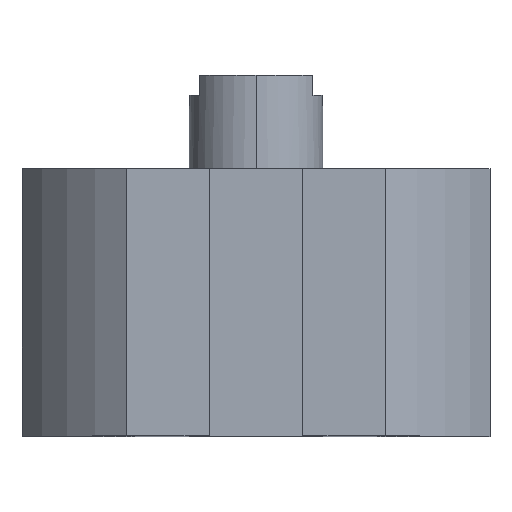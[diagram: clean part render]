
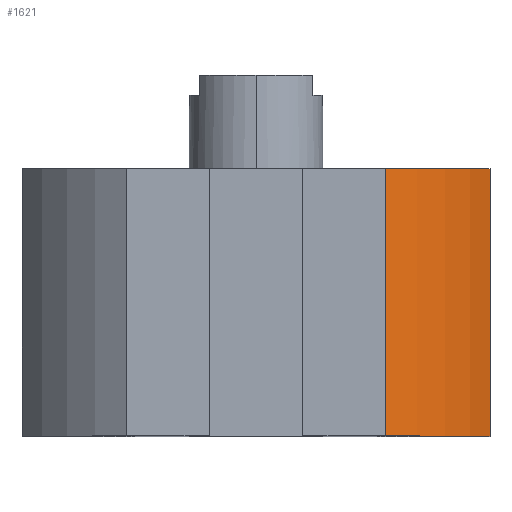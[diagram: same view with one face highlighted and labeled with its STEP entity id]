
A CAD part, top view. The second image highlights one B-rep face of the part: STEP entity #1621.
In plain terms, the highlighted cylindrical face has radius 40 mm (diameter 80 mm), a partial arc.
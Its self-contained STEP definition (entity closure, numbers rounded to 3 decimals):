
#201 = EDGE_LOOP ( 'NONE', ( #1570, #542, #1846, #1177 ) ) ;
#331 = CIRCLE ( 'NONE', #2546, 40. ) ;
#542 = ORIENTED_EDGE ( 'NONE', *, *, #1542, .F. ) ;
#716 = DIRECTION ( 'NONE',  ( 0., 1., 0. ) ) ;
#720 = CARTESIAN_POINT ( 'NONE',  ( 19.365, -40., 35. ) ) ;
#761 = CARTESIAN_POINT ( 'NONE',  ( 0., -40., 0. ) ) ;
#774 = CARTESIAN_POINT ( 'NONE',  ( 19.365, 0., 35. ) ) ;
#1093 = CYLINDRICAL_SURFACE ( 'NONE', #1484, 40. ) ;
#1130 = LINE ( 'NONE', #2727, #2387 ) ;
#1177 = ORIENTED_EDGE ( 'NONE', *, *, #2196, .T. ) ;
#1208 = AXIS2_PLACEMENT_3D ( 'NONE', #2921, #1658, #2162 ) ;
#1484 = AXIS2_PLACEMENT_3D ( 'NONE', #2800, #2043, #3052 ) ;
#1542 = EDGE_CURVE ( 'NONE', #2232, #1582, #2462, .T. ) ;
#1570 = ORIENTED_EDGE ( 'NONE', *, *, #2618, .F. ) ;
#1580 = DIRECTION ( 'NONE',  ( 0., 1., 0. ) ) ;
#1582 = VERTEX_POINT ( 'NONE', #774 ) ;
#1621 = ADVANCED_FACE ( 'NONE', ( #1836 ), #1093, .T. ) ;
#1658 = DIRECTION ( 'NONE',  ( 0., 1., 0. ) ) ;
#1693 = EDGE_CURVE ( 'NONE', #2232, #2407, #331, .T. ) ;
#1836 = FACE_OUTER_BOUND ( 'NONE', #201, .T. ) ;
#1846 = ORIENTED_EDGE ( 'NONE', *, *, #1693, .T. ) ;
#2043 = DIRECTION ( 'NONE',  ( 0., 1., 0. ) ) ;
#2162 = DIRECTION ( 'NONE',  ( 0., 0., 1. ) ) ;
#2196 = EDGE_CURVE ( 'NONE', #2407, #2391, #1130, .T. ) ;
#2232 = VERTEX_POINT ( 'NONE', #720 ) ;
#2387 = VECTOR ( 'NONE', #716, 1000. ) ;
#2388 = CARTESIAN_POINT ( 'NONE',  ( 35., 0., 19.365 ) ) ;
#2391 = VERTEX_POINT ( 'NONE', #2388 ) ;
#2406 = CARTESIAN_POINT ( 'NONE',  ( 35., -40., 19.365 ) ) ;
#2407 = VERTEX_POINT ( 'NONE', #2406 ) ;
#2462 = LINE ( 'NONE', #3090, #3027 ) ;
#2546 = AXIS2_PLACEMENT_3D ( 'NONE', #761, #2787, #3292 ) ;
#2618 = EDGE_CURVE ( 'NONE', #1582, #2391, #2740, .T. ) ;
#2727 = CARTESIAN_POINT ( 'NONE',  ( 35., -40., 19.365 ) ) ;
#2740 = CIRCLE ( 'NONE', #1208, 40. ) ;
#2787 = DIRECTION ( 'NONE',  ( 0., 1., 0. ) ) ;
#2800 = CARTESIAN_POINT ( 'NONE',  ( 0., -40., 0. ) ) ;
#2921 = CARTESIAN_POINT ( 'NONE',  ( 0., 0., 0. ) ) ;
#3027 = VECTOR ( 'NONE', #1580, 1000. ) ;
#3052 = DIRECTION ( 'NONE',  ( 0., 0., 1. ) ) ;
#3090 = CARTESIAN_POINT ( 'NONE',  ( 19.365, -40., 35. ) ) ;
#3292 = DIRECTION ( 'NONE',  ( 0., 0., 1. ) ) ;
